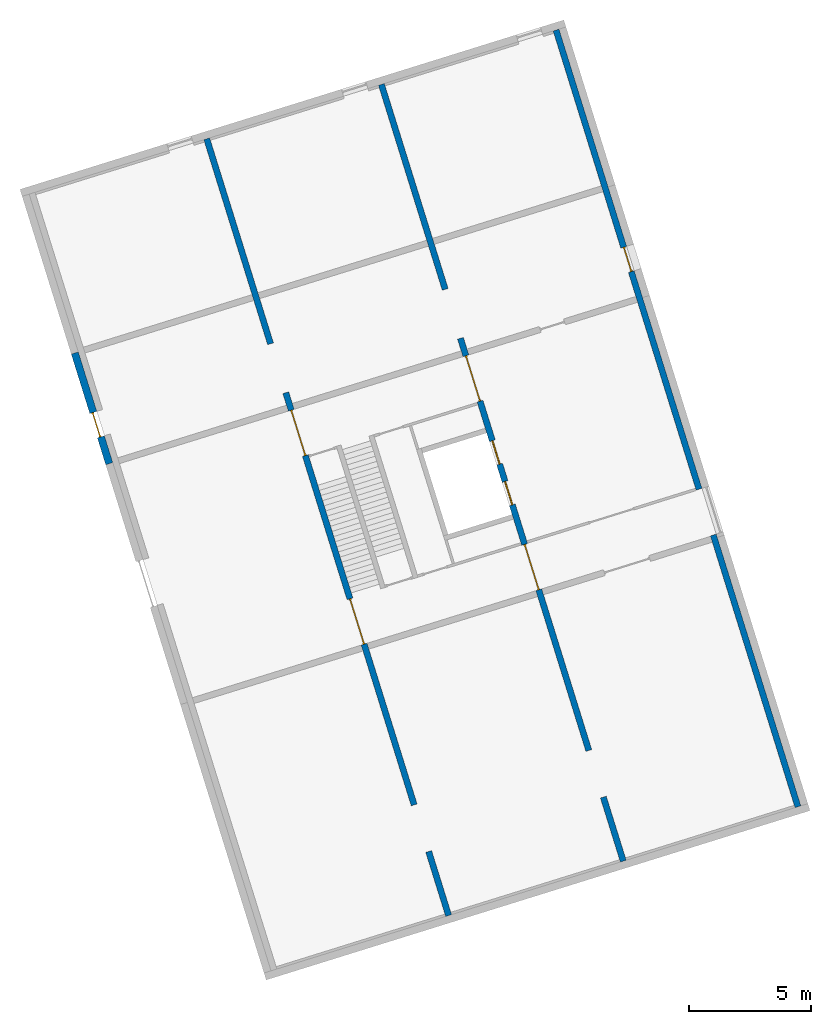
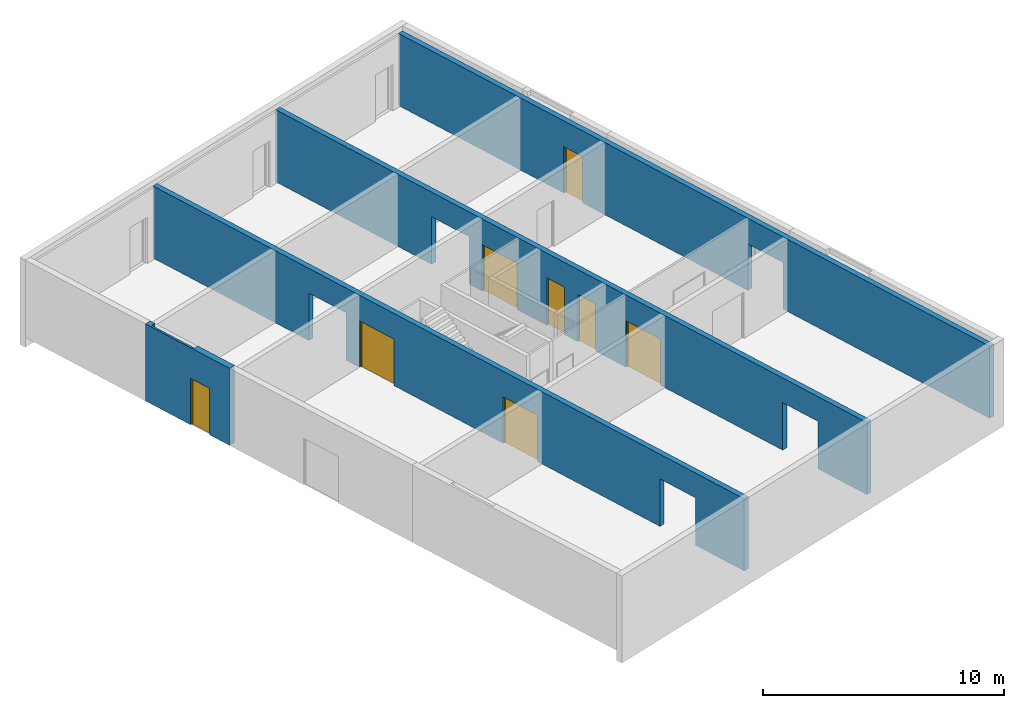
# One storey, part 3 of 5: 8 doors, 4 walls, 13 openings.
"""IFC4 building model written with IfcOpenShell, lengths in metres."""

from ifc_helpers import new_model, entity, si_unit, converted_unit, direction, frame, origin, place, context, subcontext, project, spatial, indexed_curve, outline, extrude, polygons, source, transform, mapped, material, constituent, constituent_set, type_object, type_shapes, element, fill, save


model = new_model("IFC4")

# Units and contexts
model_context = context("Model", 3, precision=1e-05, world=origin(), true_north=direction((6.12323399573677e-17, 1.0)))
body_context = subcontext(model_context, "Body", "Model", "MODEL_VIEW")
ifc_project = project(units=[si_unit("LENGTHUNIT", "METRE"), si_unit("AREAUNIT", "SQUARE_METRE"), si_unit("VOLUMEUNIT", "CUBIC_METRE"), converted_unit("PLANEANGLEUNIT", "DEGREE", entity("IfcPlaneAngleMeasure", 0.0174532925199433), si_unit("PLANEANGLEUNIT", "RADIAN"), dimensions=[0, 0, 0, 0, 0, 0, 0])], contexts=[model_context])

# Site, building, storey
site_placement = place(None, frame((13.1347999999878, 11.9886000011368, 0.0), z_axis=(0.0, 0.0, 1.0), x_axis=(0.954770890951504, 0.297342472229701, 0.0)))
site = spatial("IfcSite", under=ifc_project, at=site_placement, Name="Schiehaven", CompositionType="ELEMENT")
building_placement = place(site_placement, origin())
building = spatial("IfcBuilding", under=site, at=building_placement, Name="VORM huis", CompositionType="ELEMENT")
storey_placement = place(building_placement, origin())
storey = spatial("IfcBuildingStorey", under=building, at=storey_placement, Name="00 begane grond", CompositionType="ELEMENT", Elevation=0.0)

# Wall, openings, door
ifc_material_1 = material(Name="beton_gewapend_ihw", Category="Miscellaneous")
wall_type_1 = type_object("IfcWallType", Name="Basic Wall:28_WA_skelet_wand 250mm_gen", PredefinedType="STANDARD")
wall_1_placement = place(storey_placement, frame((80.0, 0.374999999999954, 0.0), z_axis=(0.0, 0.0, 1.0), x_axis=(0.0, 1.0, 0.0)))
wall_1 = element("IfcWall", 1, at=wall_1_placement, inside=storey, type_object=wall_type_1, material=ifc_material_1, Name="Constructieve wand", ObjectType="Wand", PredefinedType="NOTDEFINED", context=body_context, shape_type="Tessellation", body=[
    polygons([(-1.35358391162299e-16, -0.124999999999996, 0.0), (11.6675, -0.125000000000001, 0.0), (11.6675, -0.125000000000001, 2.34999999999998), (13.6325, -0.125000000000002, 2.34999999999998), (13.6325, -0.125000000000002, 0.0), (22.9749999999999, -0.124999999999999, 0.0), (22.9749999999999, -0.124999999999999, 2.34999999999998), (24.0249999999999, -0.125000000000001, 2.34999999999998), (24.0249999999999, -0.125000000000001, 0.0), (33.3500000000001, -0.124999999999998, 0.0), (33.3500000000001, -0.124999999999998, 3.65), (26.3000000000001, -0.124999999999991, 3.65), (23.9000000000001, -0.124999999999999, 3.65), (9.45000000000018, -0.124999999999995, 3.65), (7.05000000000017, -0.124999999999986, 3.65), (-1.35358391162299e-16, -0.124999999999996, 3.65), (11.6675, 0.124999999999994, 2.34999999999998), (11.6675, 0.124999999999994, 0.0), (1.35358391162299e-16, 0.124999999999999, 0.0), (1.35358391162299e-16, 0.124999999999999, 3.65), (33.3500000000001, 0.124999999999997, 3.65), (33.3500000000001, 0.124999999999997, 0.0), (24.0249999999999, 0.124999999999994, 0.0), (24.0249999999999, 0.124999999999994, 2.34999999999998), (22.9749999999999, 0.124999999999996, 2.34999999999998), (22.9749999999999, 0.124999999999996, 0.0), (13.6325, 0.124999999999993, 0.0), (13.6325, 0.124999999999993, 2.34999999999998)], [[[1, 2, 3, 4, 5, 6, 7, 8, 9, 10, 11, 12, 13, 14, 15, 16]], [[17, 18, 19, 20, 21, 22, 23, 24, 25, 26, 27, 28]], [[19, 18, 2, 1]], [[11, 10, 22, 21]], [[16, 15, 14, 13, 12, 11, 21, 20]], [[1, 16, 20, 19]], [[25, 7, 6, 26]], [[8, 24, 23, 9]], [[7, 25, 24, 8]], [[5, 4, 28, 27]], [[3, 2, 18, 17]], [[4, 3, 17, 28]], [[27, 26, 6, 5]], [[22, 10, 9, 23]]], closed=True),
])
opening_1_placement = place(wall_1_placement, origin())
element("IfcOpeningElement", 2, at=opening_1_placement, cuts=wall_1, Name="Vluchtdeur", PredefinedType="OPENING", context=body_context, shape_type="SweptSolid", body=[
    extrude(outline(indexed_curve([(-1.17499999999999, -0.9825), (1.17499999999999, -0.982500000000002), (1.17499999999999, 0.982500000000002), (-1.17499999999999, 0.982500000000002), (-1.17499999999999, -0.9825)], self_intersect=False)), frame((12.65, -1.64900000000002, 1.17499999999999), z_axis=(0.0, 1.0, 0.0), x_axis=(0.0, 0.0, -1.0)), (0.0, 0.0, 1.0), 3.048),
])
opening_2_placement = place(wall_1_placement, frame((24.0249999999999, 0.124999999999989, 0.0)))
opening_2 = element("IfcOpeningElement", 3, at=opening_2_placement, cuts=wall_1, Name="Vluchtdeur", PredefinedType="OPENING", context=body_context, shape_type="SweptSolid", body=[
    extrude(outline(indexed_curve([(2.34999999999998, 1.05), (0.0, 1.05), (0.0, 0.0), (2.34999999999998, 0.0), (2.34999999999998, 1.05)], self_intersect=False)), frame((0.0, 0.0, 0.0), z_axis=(0.0, -1.0, 0.0), x_axis=(0.0, 0.0, 1.0)), (0.0, 0.0, 1.0), 0.25),
])
ifc_material_2 = material(Name="PD_a_buitenwandopeningen", Category="Miscellaneous")
ifc_constituent_1 = constituent(ifc_material_2, Name="PD_a_buitenwandopeningen", Category="Miscellaneous")
ifc_material_3 = material(Name="metaal_aluminium_ntb", Category="Miscellaneous")
ifc_constituent_2 = constituent(ifc_material_3, Name="metaal_aluminium_ntb", Category="Miscellaneous")
ifc_constituent_set_1 = constituent_set(constituents=[ifc_constituent_1, ifc_constituent_2])
ifc_constituent_3 = constituent(ifc_material_2, Name="PD_a_buitenwandopeningen", Category="Miscellaneous")
ifc_constituent_4 = constituent(ifc_material_3, Name="Panel", Category="Miscellaneous")
ifc_constituent_set_2 = constituent_set(constituents=[ifc_constituent_3, ifc_constituent_4])
door_type_1 = type_object("IfcDoorType", Name="31_DO_buitendeur enkel:buitendeur zelfsluitend 30min", OperationType="NOTDEFINED", PredefinedType="DOOR", material=ifc_constituent_set_2)
shared_shape_1 = source(origin(), body_context, "Body", "SweptSolid", [
    extrude(outline(indexed_curve([(-1.16249999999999, -0.525000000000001), (1.18749999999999, -0.525), (1.18749999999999, 0.525000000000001), (-1.16249999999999, 0.525), (-1.16249999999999, 0.475), (1.13749999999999, 0.475), (1.13749999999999, -0.475), (-1.16249999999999, -0.475), (-1.16249999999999, -0.525000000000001)], self_intersect=False)), frame((0.525000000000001, 0.0800000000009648, 1.16249999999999), z_axis=(0.0, 1.0, 0.0), x_axis=(0.0, 0.0, 1.0)), (0.0, 0.0, 1.0), 0.1),
    extrude(outline(indexed_curve([(-0.025, -0.475), (0.025, -0.475), (0.025, 0.475), (-0.025, 0.475), (-0.025, -0.475)], self_intersect=False)), frame((0.525000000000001, 0.130000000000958, 0.0), z_axis=(0.0, 0.0, 1.0), x_axis=(0.0, 1.0, 0.0)), (0.0, 0.0, 1.0), 2.29999999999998),
])
type_shapes(door_type_1, [shared_shape_1])
door_1_placement = place(opening_2_placement, frame((0.0, 0.0, 0.0), z_axis=(0.0, 0.0, 1.0), x_axis=(-1.0, 0.0, 0.0)))
door_1 = element("IfcDoor", 4, at=door_1_placement, inside=storey, type_object=door_type_1, material=ifc_constituent_set_1, Name="Vluchtdeur", ObjectType="Deur", OperationType="NOTDEFINED", OverallHeight=2.34999999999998, OverallWidth=1.05, PredefinedType="DOOR", context=body_context, shape_type="MappedRepresentation", body=[
    mapped(shared_shape_1, transform((0.0, 0.0, 0.0), scale=1.0)),
])
fill(opening_2, door_1)

# Wall, openings, doors
wall_2_placement = place(storey_placement, frame((65.0, 33.7249999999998, 0.0), z_axis=(0.0, 0.0, 1.0), x_axis=(0.0, -1.0, 0.0)))
wall_2 = element("IfcWall", 5, at=wall_2_placement, inside=storey, type_object=wall_type_1, material=ifc_material_1, Name="Constructieve wand", ObjectType="Wand", PredefinedType="NOTDEFINED", context=body_context, shape_type="Tessellation", body=[
    polygons([(33.35, -0.125000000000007, 0.0), (33.35, -0.125000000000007, 3.65), (4.33146851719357e-15, -0.125000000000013, 3.65), (4.33146851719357e-15, -0.125000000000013, 0.0), (8.79999999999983, -0.125000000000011, 0.0), (8.79999999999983, -0.125000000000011, 2.4), (10.8999999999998, -0.125000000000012, 2.4), (10.8999999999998, -0.125000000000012, 0.0), (11.65, -0.125000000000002, 0.0), (11.65, -0.125000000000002, 2.34999999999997), (13.6, -0.125000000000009, 2.34999999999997), (13.6, -0.125000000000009, 0.0), (19.75, -0.125000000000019, 0.0), (19.75, -0.125000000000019, 2.34999999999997), (21.7, -0.125000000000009, 2.34999999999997), (21.7, -0.125000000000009, 0.0), (28.6, -0.125000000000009, 0.0), (28.6, -0.125000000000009, 2.4), (30.6, -0.125000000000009, 2.4), (30.6, -0.125000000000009, 0.0), (33.35, 0.124999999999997, 3.65), (33.35, 0.124999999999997, 0.0), (30.6, 0.124999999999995, 0.0), (30.6, 0.124999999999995, 2.4), (28.6, 0.124999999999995, 2.4), (28.6, 0.124999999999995, 0.0), (21.95, 0.124999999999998, 0.0), (21.7, 0.124999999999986, 0.0), (21.7, 0.124999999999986, 2.34999999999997), (19.75, 0.124999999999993, 2.34999999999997), (19.75, 0.124999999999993, 0.0), (13.6, 0.125000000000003, 0.0), (13.6, 0.125000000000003, 2.34999999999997), (11.65, 0.124999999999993, 2.34999999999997), (11.65, 0.124999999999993, 0.0), (11.4, 0.124999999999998, 0.0), (10.8999999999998, 0.124999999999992, 0.0), (10.8999999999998, 0.124999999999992, 2.4), (8.79999999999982, 0.124999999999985, 2.4), (8.79999999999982, 0.125000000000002, 0.0), (0.0, 0.124999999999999, 0.0), (0.0, 0.124999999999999, 3.65), (11.4, 0.124999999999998, 3.65), (11.65, 0.124999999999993, 3.65), (21.7, 0.124999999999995, 3.65), (21.95, 0.124999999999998, 3.65)], [[[1, 2, 3, 4, 5, 6, 7, 8, 9, 10, 11, 12, 13, 14, 15, 16, 17, 18, 19, 20]], [[21, 22, 23, 24, 25, 26, 27, 28, 29, 30, 31, 32, 33, 34, 35, 36, 37, 38, 39, 40, 41, 42, 43, 44, 45, 46]], [[4, 41, 40, 5]], [[2, 1, 22, 21]], [[3, 2, 21, 46, 45, 44, 43, 42]], [[4, 3, 42, 41]], [[6, 39, 38, 7]], [[39, 6, 5, 40]], [[7, 38, 37, 8]], [[16, 15, 29, 28]], [[14, 13, 31, 30]], [[15, 14, 30, 29]], [[34, 10, 9, 35]], [[11, 33, 32, 12]], [[10, 34, 33, 11]], [[18, 25, 24, 19]], [[25, 18, 17, 26]], [[19, 24, 23, 20]], [[8, 37, 36, 35, 9]], [[16, 28, 27, 26, 17]], [[31, 13, 12, 32]], [[22, 1, 20, 23]]], closed=True),
])
opening_3_placement = place(wall_2_placement, origin())
element("IfcOpeningElement", 6, at=opening_3_placement, cuts=wall_2, Name="Constructieve wand", PredefinedType="OPENING", context=body_context, shape_type="SweptSolid", body=[
    extrude(outline(indexed_curve([(-1.2, -1.05), (1.2, -1.05), (1.2, 1.05), (-1.2, 1.05), (-1.2, -1.05)], self_intersect=False)), frame((9.84999999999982, -0.124999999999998, 1.2), z_axis=(0.0, 1.0, 0.0), x_axis=(0.0, 0.0, -1.0)), (0.0, 0.0, 1.0), 0.249999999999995),
])
opening_4_placement = place(wall_2_placement, origin())
element("IfcOpeningElement", 7, at=opening_4_placement, cuts=wall_2, Name="Constructieve wand", PredefinedType="OPENING", context=body_context, shape_type="SweptSolid", body=[
    extrude(outline(indexed_curve([(-1.2, -0.999999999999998), (1.2, -0.999999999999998), (1.2, 0.999999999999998), (-1.2, 0.999999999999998), (-1.2, -0.999999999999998)], self_intersect=False)), frame((29.6, -0.125000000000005, 1.2), z_axis=(0.0, 1.0, 0.0), x_axis=(0.0, 0.0, -1.0)), (0.0, 0.0, 1.0), 0.249999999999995),
])
opening_5_placement = place(wall_2_placement, frame((21.7, 0.125000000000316, 0.0)))
opening_5 = element("IfcOpeningElement", 8, at=opening_5_placement, cuts=wall_2, Name="Vluchtdeur", PredefinedType="OPENING", context=body_context, shape_type="SweptSolid", body=[
    extrude(outline(indexed_curve([(2.34999999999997, 1.50459585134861e-28), (2.34999999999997, 1.95), (0.0, 1.95), (0.0, 1.50459585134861e-28), (2.34999999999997, 1.50459585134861e-28)], self_intersect=False)), frame((0.0, 0.0, 0.0), z_axis=(0.0, -1.0, 0.0), x_axis=(0.0, 0.0, 1.0)), (0.0, 0.0, 1.0), 0.25),
])
opening_6_placement = place(wall_2_placement, frame((13.6, 0.125000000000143, 0.0)))
opening_6 = element("IfcOpeningElement", 9, at=opening_6_placement, cuts=wall_2, Name="Vluchtdeur", PredefinedType="OPENING", context=body_context, shape_type="SweptSolid", body=[
    extrude(outline(indexed_curve([(2.34999999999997, 1.95), (0.0, 1.95), (0.0, 2.16573425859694e-15), (2.34999999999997, 2.16573425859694e-15), (2.34999999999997, 1.95)], self_intersect=False)), frame((0.0, 0.0, 0.0), z_axis=(0.0, -1.0, 0.0), x_axis=(0.0, 0.0, 1.0)), (0.0, 0.0, 1.0), 0.25),
])
ifc_material_4 = material(Name="PD_a_binnenwandopeningen", Category="Miscellaneous")
ifc_constituent_5 = constituent(ifc_material_4, Name="PD_a_binnenwandopeningen", Category="Miscellaneous")
ifc_constituent_6 = constituent(ifc_material_3, Name="metaal_aluminium_ntb", Category="Miscellaneous")
ifc_constituent_set_3 = constituent_set(constituents=[ifc_constituent_5, ifc_constituent_6])
ifc_constituent_7 = constituent(ifc_material_4, Name="PD_a_binnenwandopeningen", Category="Miscellaneous")
ifc_constituent_8 = constituent(ifc_material_3, Name="Panel", Category="Miscellaneous")
ifc_constituent_set_4 = constituent_set(constituents=[ifc_constituent_7, ifc_constituent_8])
door_type_2 = type_object("IfcDoorType", Name="32_DO_binnendeur dubbel:binnendeur zelfsluitend 30min", OperationType="NOTDEFINED", PredefinedType="DOOR", material=ifc_constituent_set_4)
shared_shape_2 = source(origin(), body_context, "Body", "SweptSolid", [
    extrude(outline(indexed_curve([(0.925, -1.16249999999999), (0.975, -1.16249999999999), (0.975, 1.18749999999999), (-0.975, 1.18749999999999), (-0.975, -1.16249999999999), (-0.925, -1.16249999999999), (-0.925, 1.13749999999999), (0.925, 1.13749999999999), (0.925, -1.16249999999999)], self_intersect=False)), frame((0.975000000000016, 0.175000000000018, 1.16249999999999), z_axis=(0.0, -1.0, 0.0), x_axis=(1.0, 0.0, 0.0)), (0.0, 0.0, 1.0), 0.1),
    extrude(outline(indexed_curve([(-0.462499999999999, -0.025), (0.462499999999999, -0.025), (0.462499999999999, 0.025), (-0.462499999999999, 0.025), (-0.462499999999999, -0.025)], self_intersect=False)), frame((0.512500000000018, 0.124999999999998, 0.0)), (0.0, 0.0, 1.0), 2.29999999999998),
    extrude(outline(indexed_curve([(-0.4625, -0.025), (0.4625, -0.025), (0.4625, 0.025), (-0.4625, 0.025), (-0.4625, -0.025)], self_intersect=False)), frame((1.43750000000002, 0.125000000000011, 0.0)), (0.0, 0.0, 1.0), 2.29999999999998),
])
type_shapes(door_type_2, [shared_shape_2])
door_2_placement = place(opening_5_placement, frame((0.0, 0.0, 0.0), z_axis=(0.0, 0.0, 1.0), x_axis=(-1.0, 0.0, 0.0)))
door_2 = element("IfcDoor", 10, at=door_2_placement, inside=storey, type_object=door_type_2, material=ifc_constituent_set_3, Name="Vluchtdeur", ObjectType="Deur", OperationType="NOTDEFINED", OverallHeight=2.34999999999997, OverallWidth=1.95, PredefinedType="DOOR", context=body_context, shape_type="MappedRepresentation", body=[
    mapped(shared_shape_2, transform((0.0, 0.0, 0.0), scale=1.0)),
])
fill(opening_5, door_2)
ifc_constituent_9 = constituent(ifc_material_4, Name="PD_a_binnenwandopeningen", Category="Miscellaneous")
ifc_constituent_10 = constituent(ifc_material_3, Name="metaal_aluminium_ntb", Category="Miscellaneous")
ifc_constituent_set_5 = constituent_set(constituents=[ifc_constituent_9, ifc_constituent_10])
ifc_constituent_11 = constituent(ifc_material_4, Name="PD_a_binnenwandopeningen", Category="Miscellaneous")
ifc_constituent_12 = constituent(ifc_material_3, Name="Panel", Category="Miscellaneous")
ifc_constituent_set_6 = constituent_set(constituents=[ifc_constituent_11, ifc_constituent_12])
door_type_3 = type_object("IfcDoorType", Name="32_DO_binnendeur dubbel:binnendeur zelfsluitend 30min", OperationType="NOTDEFINED", PredefinedType="DOOR", material=ifc_constituent_set_6)
shared_shape_3 = source(origin(), body_context, "Body", "SweptSolid", [
    extrude(outline(indexed_curve([(-1.16249999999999, -0.975), (1.18749999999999, -0.975), (1.18749999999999, 0.975), (-1.16249999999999, 0.975), (-1.16249999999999, 0.925), (1.13749999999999, 0.925), (1.13749999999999, -0.925), (-1.16249999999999, -0.925), (-1.16249999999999, -0.975)], self_intersect=False)), frame((0.975, 0.075000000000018, 1.16249999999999), z_axis=(0.0, 1.0, 0.0), x_axis=(0.0, 0.0, 1.0)), (0.0, 0.0, 1.0), 0.1),
    extrude(outline(indexed_curve([(-0.025, -0.462499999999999), (0.025, -0.462499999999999), (0.025, 0.462499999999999), (-0.025, 0.462499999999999), (-0.025, -0.462499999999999)], self_intersect=False)), frame((1.4375, 0.124999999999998, 0.0), z_axis=(0.0, 0.0, 1.0), x_axis=(0.0, 1.0, 0.0)), (0.0, 0.0, 1.0), 2.29999999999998),
    extrude(outline(indexed_curve([(-0.0249999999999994, -0.4625), (0.0250000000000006, -0.4625), (0.0249999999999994, 0.4625), (-0.0250000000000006, 0.4625), (-0.0249999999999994, -0.4625)], self_intersect=False)), frame((0.5125, 0.125000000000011, 0.0), z_axis=(0.0, 0.0, 1.0), x_axis=(0.0, 1.0, 0.0)), (0.0, 0.0, 1.0), 2.29999999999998),
])
type_shapes(door_type_3, [shared_shape_3])
door_3_placement = place(opening_6_placement, frame((0.0, 0.0, 0.0), z_axis=(0.0, 0.0, 1.0), x_axis=(-1.0, 0.0, 0.0)))
door_3 = element("IfcDoor", 11, at=door_3_placement, inside=storey, type_object=door_type_3, material=ifc_constituent_set_5, Name="Vluchtdeur", ObjectType="Deur", OperationType="NOTDEFINED", OverallHeight=2.34999999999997, OverallWidth=1.95, PredefinedType="DOOR", context=body_context, shape_type="MappedRepresentation", body=[
    mapped(shared_shape_3, transform((0.0, 0.0, 0.0), scale=1.0)),
])
fill(opening_6, door_3)

wall_3_placement = place(storey_placement, frame((72.5000000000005, 0.374999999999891, 0.0), z_axis=(0.0, 0.0, 1.0), x_axis=(0.0, 1.0, 0.0)))
wall_3 = element("IfcWall", 12, at=wall_3_placement, inside=storey, type_object=wall_type_1, material=ifc_material_1, Name="Constructieve wand", ObjectType="Wand", PredefinedType="NOTDEFINED", context=body_context, shape_type="Tessellation", body=[
    polygons([(18.05, -0.125000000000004, 2.03576600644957e-32), (19.75, -0.125, 0.0), (19.75, -0.125, 2.34999999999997), (21.7, -0.125000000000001, 2.34999999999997), (21.7, -0.125000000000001, 0.0), (22.4500000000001, -0.125000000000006, 0.0), (22.4500000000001, -0.125000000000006, 2.4), (24.5500000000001, -0.124999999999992, 2.4), (24.5500000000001, -0.124999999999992, 0.0), (33.35, -0.125000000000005, 0.0), (33.35, -0.125000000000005, 3.65), (1.28590471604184e-15, -0.125000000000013, 3.65), (2.03037586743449e-15, -0.125000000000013, 0.0), (2.7499999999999, -0.125000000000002, 0.0), (2.7499999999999, -0.125000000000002, 2.4), (4.74999999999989, -0.125000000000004, 2.4), (4.74999999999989, -0.125000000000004, 0.0), (11.65, -0.125, 0.0), (11.65, -0.125, 2.34999999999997), (13.6, -0.125000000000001, 2.34999999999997), (13.6, -0.125000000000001, 0.0), (15.3, -0.125000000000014, 0.0), (15.3, -0.125000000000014, 2.39999999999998), (16.3, -0.125000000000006, 2.39999999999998), (16.3, -0.125000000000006, -1.48156555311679e-45), (17.05, -0.124999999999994, 2.03576600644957e-32), (17.05, -0.124999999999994, 2.39999999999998), (18.05, -0.125000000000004, 2.39999999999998), (19.75, 0.125000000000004, 2.34999999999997), (19.75, 0.125000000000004, 0.0), (18.05, 0.125, 0.0), (18.05, 0.125, 2.39999999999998), (17.05, 0.125000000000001, 2.39999999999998), (17.05, 0.125000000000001, -2.03576600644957e-32), (16.3, 0.125000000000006, -1.48156555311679e-45), (16.3, 0.125000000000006, 2.39999999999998), (15.3, 0.124999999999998, 2.39999999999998), (15.3, 0.124999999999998, 0.0), (13.6, 0.124999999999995, 0.0), (13.6, 0.124999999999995, 2.34999999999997), (11.65, 0.125000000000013, 2.34999999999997), (11.65, 0.125000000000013, 0.0), (11.4, 0.125, 0.0), (4.74999999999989, 0.125, 0.0), (4.74999999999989, 0.125, 2.4), (2.7499999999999, 0.125000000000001, 2.4), (2.7499999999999, 0.125000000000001, 0.0), (2.23341345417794e-15, 0.124999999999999, 0.0), (1.48894230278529e-15, 0.124999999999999, 3.65), (11.4, 0.125, 3.65), (11.65, 0.125000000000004, 3.65), (21.7, 0.125000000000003, 3.65), (21.95, 0.124999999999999, 3.65), (33.35, 0.124999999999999, 3.65), (33.35, 0.124999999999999, 0.0), (24.5500000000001, 0.125000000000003, 0.0), (24.5500000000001, 0.125000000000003, 2.4), (22.4500000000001, 0.124999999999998, 2.4), (22.4500000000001, 0.124999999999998, 0.0), (21.95, 0.124999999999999, 0.0), (21.7, 0.125000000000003, 0.0), (21.7, 0.125000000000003, 2.34999999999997)], [[[1, 2, 3, 4, 5, 6, 7, 8, 9, 10, 11, 12, 13, 14, 15, 16, 17, 18, 19, 20, 21, 22, 23, 24, 25, 26, 27, 28]], [[29, 30, 31, 32, 33, 34, 35, 36, 37, 38, 39, 40, 41, 42, 43, 44, 45, 46, 47, 48, 49, 50, 51, 52, 53, 54, 55, 56, 57, 58, 59, 60, 61, 62]], [[13, 48, 47, 14]], [[11, 10, 55, 54]], [[12, 11, 54, 53, 52, 51, 50, 49]], [[13, 12, 49, 48]], [[28, 32, 31, 1]], [[33, 27, 26, 34]], [[32, 28, 27, 33]], [[24, 36, 35, 25]], [[37, 23, 22, 38]], [[36, 24, 23, 37]], [[5, 4, 62, 61]], [[3, 2, 30, 29]], [[4, 3, 29, 62]], [[42, 41, 19, 18]], [[40, 39, 21, 20]], [[41, 40, 20, 19]], [[58, 7, 6, 59]], [[8, 57, 56, 9]], [[7, 58, 57, 8]], [[15, 46, 45, 16]], [[46, 15, 14, 47]], [[16, 45, 44, 17]], [[18, 17, 44, 43, 42]], [[22, 21, 39, 38]], [[34, 26, 25, 35]], [[31, 30, 2, 1]], [[61, 60, 59, 6, 5]], [[55, 10, 9, 56]]], closed=True),
])
opening_7_placement = place(wall_3_placement, origin())
element("IfcOpeningElement", 13, at=opening_7_placement, cuts=wall_3, Name="Constructieve wand", PredefinedType="OPENING", context=body_context, shape_type="SweptSolid", body=[
    extrude(outline(indexed_curve([(-1.2, -1.05), (1.2, -1.05), (1.2, 1.05), (-1.2, 1.05), (-1.2, -1.05)], self_intersect=False)), frame((23.5000000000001, -0.124999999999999, 1.2), z_axis=(0.0, 1.0, 0.0), x_axis=(0.0, 0.0, -1.0)), (0.0, 0.0, 1.0), 0.249999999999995),
])
opening_8_placement = place(wall_3_placement, origin())
element("IfcOpeningElement", 14, at=opening_8_placement, cuts=wall_3, Name="Constructieve wand", PredefinedType="OPENING", context=body_context, shape_type="SweptSolid", body=[
    extrude(outline(indexed_curve([(-1.2, -0.999999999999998), (1.2, -0.999999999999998), (1.2, 0.999999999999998), (-1.2, 0.999999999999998), (-1.2, -0.999999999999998)], self_intersect=False)), frame((3.74999999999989, -0.124999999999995, 1.2), z_axis=(0.0, 1.0, 0.0), x_axis=(0.0, 0.0, -1.0)), (0.0, 0.0, 1.0), 0.249999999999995),
])
opening_9_placement = place(wall_3_placement, frame((-0.374999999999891, 72.5000000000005, 0.0), z_axis=(0.0, 0.0, 1.0), x_axis=(0.0, -1.0, 0.0)))
opening_9 = element("IfcOpeningElement", 15, at=opening_9_placement, cuts=wall_3, Name="Brandweerlift", PredefinedType="OPENING", context=body_context, shape_type="SweptSolid", body=[
    extrude(outline(indexed_curve([(-1.19999999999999, -0.500000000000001), (1.19999999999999, -0.500000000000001), (1.19999999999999, 0.499999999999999), (-1.19999999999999, 0.499999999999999), (-1.19999999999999, -0.500000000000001)], self_intersect=False)), frame((72.7936720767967, 17.9249999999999, 1.19999999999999), z_axis=(-1.0, 0.0, 0.0), x_axis=(0.0, 0.0, -1.0)), (0.0, 0.0, 1.0), 0.756310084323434),
])
opening_10_placement = place(wall_3_placement, frame((-0.374999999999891, 72.5000000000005, 0.0), z_axis=(0.0, 0.0, 1.0), x_axis=(0.0, -1.0, 0.0)))
opening_10 = element("IfcOpeningElement", 16, at=opening_10_placement, cuts=wall_3, Name="Brandweerlift", PredefinedType="OPENING", context=body_context, shape_type="SweptSolid", body=[
    extrude(outline(indexed_curve([(-1.19999999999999, -0.499999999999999), (1.19999999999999, -0.499999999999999), (1.19999999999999, 0.500000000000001), (-1.19999999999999, 0.500000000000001), (-1.19999999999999, -0.499999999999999)], self_intersect=False)), frame((72.7936720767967, 16.1749999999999, 1.19999999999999), z_axis=(-1.0, 0.0, 0.0), x_axis=(0.0, 0.0, -1.0)), (0.0, 0.0, 1.0), 0.756310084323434),
])
opening_11_placement = place(wall_3_placement, frame((13.6, 0.125000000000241, 0.0)))
opening_11 = element("IfcOpeningElement", 17, at=opening_11_placement, cuts=wall_3, Name="Vluchtdeur", PredefinedType="OPENING", context=body_context, shape_type="SweptSolid", body=[
    extrude(outline(indexed_curve([(2.34999999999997, 1.95), (0.0, 1.95), (0.0, 2.1657342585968e-15), (2.34999999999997, 2.1657342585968e-15), (2.34999999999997, 1.95)], self_intersect=False)), frame((0.0, 0.0, 0.0), z_axis=(0.0, -1.0, 0.0), x_axis=(0.0, 0.0, 1.0)), (0.0, 0.0, 1.0), 0.25),
])
opening_12_placement = place(wall_3_placement, frame((21.7, 0.125000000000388, 0.0)))
opening_12 = element("IfcOpeningElement", 18, at=opening_12_placement, cuts=wall_3, Name="Vluchtdeur", PredefinedType="OPENING", context=body_context, shape_type="SweptSolid", body=[
    extrude(outline(indexed_curve([(2.34999999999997, 1.50842700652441e-29), (2.34999999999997, 1.95), (0.0, 1.95), (0.0, 1.50842700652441e-29), (2.34999999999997, 1.50842700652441e-29)], self_intersect=False)), frame((0.0, 0.0, 0.0), z_axis=(0.0, -1.0, 0.0), x_axis=(0.0, 0.0, 1.0)), (0.0, 0.0, 1.0), 0.25),
])
door_type_4 = type_object("IfcDoorType", Name="66_WI_liftdeur:brandweerlift - tweezijdig toegankelijk", OperationType="NOTDEFINED", PredefinedType="DOOR", material=ifc_material_3)
shared_shape_4 = source(origin(), body_context, "Body", "SweptSolid", [
    extrude(outline(indexed_curve([(-0.0250000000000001, -0.25), (0.0249999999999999, -0.25), (0.0250000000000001, 0.25), (-0.0249999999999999, 0.25), (-0.0250000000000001, -0.25)], self_intersect=False)), frame((0.250000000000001, 0.462638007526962, 0.0), z_axis=(0.0, 0.0, 1.0), x_axis=(0.0, 1.0, 0.0)), (0.0, 0.0, 1.0), 2.39999999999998),
    extrude(outline(indexed_curve([(-0.0250000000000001, -0.25), (0.0249999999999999, -0.25), (0.0250000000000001, 0.25), (-0.0249999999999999, 0.25), (-0.0250000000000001, -0.25)], self_intersect=False)), frame((0.750000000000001, 0.46263800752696, 0.0), z_axis=(0.0, 0.0, 1.0), x_axis=(0.0, 1.0, 0.0)), (0.0, 0.0, 1.0), 2.39999999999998),
])
type_shapes(door_type_4, [shared_shape_4])
door_4_placement = place(opening_10_placement, frame((72.0373619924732, 16.6749999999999, 0.0), z_axis=(0.0, 0.0, 1.0), x_axis=(0.0, -1.0, 0.0)))
door_4 = element("IfcDoor", 19, at=door_4_placement, inside=storey, type_object=door_type_4, material=ifc_material_3, Name="Brandweerlift", ObjectType="Transport", OperationType="NOTDEFINED", OverallHeight=2.39999999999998, OverallWidth=1.0, PredefinedType="DOOR", context=body_context, shape_type="MappedRepresentation", body=[
    mapped(shared_shape_4, transform((0.0, 0.0, 0.0), scale=1.0)),
])
fill(opening_10, door_4)
door_5_placement = place(opening_9_placement, frame((72.0373619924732, 18.4249999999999, 0.0), z_axis=(0.0, 0.0, 1.0), x_axis=(0.0, -1.0, 0.0)))
door_5 = element("IfcDoor", 20, at=door_5_placement, inside=storey, type_object=door_type_4, material=ifc_material_3, Name="Brandweerlift", ObjectType="Transport", OperationType="NOTDEFINED", OverallHeight=2.39999999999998, OverallWidth=1.0, PredefinedType="DOOR", context=body_context, shape_type="MappedRepresentation", body=[
    mapped(shared_shape_4, transform((0.0, 0.0, 0.0), scale=1.0)),
])
fill(opening_9, door_5)
ifc_constituent_13 = constituent(ifc_material_4, Name="PD_a_binnenwandopeningen", Category="Miscellaneous")
ifc_constituent_14 = constituent(ifc_material_3, Name="metaal_aluminium_ntb", Category="Miscellaneous")
ifc_constituent_set_7 = constituent_set(constituents=[ifc_constituent_13, ifc_constituent_14])
door_6_placement = place(opening_12_placement, frame((0.0, 0.0, 0.0), z_axis=(0.0, 0.0, 1.0), x_axis=(-1.0, 0.0, 0.0)))
door_6 = element("IfcDoor", 21, at=door_6_placement, inside=storey, type_object=door_type_2, material=ifc_constituent_set_7, Name="Vluchtdeur", ObjectType="Deur", OperationType="NOTDEFINED", OverallHeight=2.34999999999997, OverallWidth=1.95, PredefinedType="DOOR", context=body_context, shape_type="MappedRepresentation", body=[
    mapped(shared_shape_2, transform((0.0, 0.0, 0.0), scale=1.0)),
])
fill(opening_12, door_6)
ifc_constituent_15 = constituent(ifc_material_4, Name="PD_a_binnenwandopeningen", Category="Miscellaneous")
ifc_constituent_16 = constituent(ifc_material_3, Name="metaal_aluminium_ntb", Category="Miscellaneous")
ifc_constituent_set_8 = constituent_set(constituents=[ifc_constituent_15, ifc_constituent_16])
door_7_placement = place(opening_11_placement, frame((0.0, 0.0, 0.0), z_axis=(0.0, 0.0, 1.0), x_axis=(-1.0, 0.0, 0.0)))
door_7 = element("IfcDoor", 22, at=door_7_placement, inside=storey, type_object=door_type_3, material=ifc_constituent_set_8, Name="Vluchtdeur", ObjectType="Deur", OperationType="NOTDEFINED", OverallHeight=2.34999999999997, OverallWidth=1.95, PredefinedType="DOOR", context=body_context, shape_type="MappedRepresentation", body=[
    mapped(shared_shape_3, transform((0.0, 0.0, 0.0), scale=1.0)),
])
fill(opening_11, door_7)

# Wall, opening, door
ifc_material_5 = material(Name="ntb_ntb_ntb", Category="Miscellaneous")
wall_type_2 = type_object("IfcWallType", Name="Basic Wall: 300mm_gen", PredefinedType="STANDARD")
wall_4_placement = place(storey_placement, frame((57.225, 26.9499999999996, 0.0), z_axis=(0.0, 0.0, 1.0), x_axis=(0.0, -1.0, 0.0)))
wall_4 = element("IfcWall", 23, at=wall_4_placement, inside=storey, type_object=wall_type_2, material=ifc_material_5, Name="Gevelwand", ObjectType="Wand", PredefinedType="NOTDEFINED", context=body_context, shape_type="Tessellation", body=[
    polygons([(4.74999999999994, -0.149999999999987, 0.0), (4.74999999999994, -0.149999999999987, 3.9), (0.0, -0.149999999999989, 3.9), (0.0, -0.149999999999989, 0.0), (2.54999999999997, -0.150000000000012, 0.0), (2.54999999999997, -0.150000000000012, 2.34999999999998), (3.59999999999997, -0.149999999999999, 2.34999999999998), (3.59999999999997, -0.149999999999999, 0.0), (4.74999999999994, 0.15000000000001, 3.9), (4.74999999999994, 0.15000000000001, 0.0), (3.59999999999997, 0.149999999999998, 0.0), (3.59999999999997, 0.149999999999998, 2.34999999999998), (2.54999999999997, 0.149999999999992, 2.34999999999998), (2.54999999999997, 0.149999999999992, 0.0), (3.5527136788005e-15, 0.150000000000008, 0.0), (3.5527136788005e-15, 0.150000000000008, 3.9), (0.274999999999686, 0.150000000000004, 3.9), (0.274999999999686, 0.150000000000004, 3.65), (2.67499999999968, 0.14999999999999, 3.65), (2.67499999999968, 0.150000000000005, 3.9), (2.67499999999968, -0.0499999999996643, 3.9), (0.274999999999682, -0.0499999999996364, 3.9), (0.274999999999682, -0.0499999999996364, 3.65), (2.67499999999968, -0.0499999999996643, 3.65)], [[[1, 2, 3, 4, 5, 6, 7, 8]], [[9, 10, 11, 12, 13, 14, 15, 16, 17, 18, 19, 20]], [[4, 15, 14, 5]], [[2, 1, 10, 9]], [[3, 2, 9, 20, 21, 22, 17, 16]], [[4, 3, 16, 15]], [[7, 6, 13, 12]], [[6, 5, 14, 13]], [[8, 7, 12, 11]], [[23, 24, 19, 18]], [[22, 23, 18, 17]], [[24, 23, 22, 21]], [[24, 21, 20, 19]], [[10, 1, 8, 11]]], closed=True),
])
opening_13_placement = place(wall_4_placement, frame((3.59999999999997, 0.150000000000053, 0.0)))
opening_13 = element("IfcOpeningElement", 24, at=opening_13_placement, cuts=wall_4, Name="Vluchtdeur", PredefinedType="OPENING", context=body_context, shape_type="SweptSolid", body=[
    extrude(outline(indexed_curve([(2.34999999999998, 0.0), (2.34999999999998, 1.05), (0.0, 1.05), (0.0, 0.0), (2.34999999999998, 0.0)], self_intersect=False)), frame((0.0, 0.0, 0.0), z_axis=(0.0, -1.0, 0.0), x_axis=(0.0, 0.0, 1.0)), (0.0, 0.0, 1.0), 0.3),
])
ifc_constituent_17 = constituent(ifc_material_2, Name="PD_a_buitenwandopeningen", Category="Miscellaneous")
ifc_constituent_18 = constituent(ifc_material_3, Name="metaal_aluminium_ntb", Category="Miscellaneous")
ifc_constituent_set_9 = constituent_set(constituents=[ifc_constituent_17, ifc_constituent_18])
ifc_constituent_19 = constituent(ifc_material_2, Name="PD_a_buitenwandopeningen", Category="Miscellaneous")
ifc_constituent_20 = constituent(ifc_material_3, Name="Panel", Category="Miscellaneous")
ifc_constituent_set_10 = constituent_set(constituents=[ifc_constituent_19, ifc_constituent_20])
door_type_5 = type_object("IfcDoorType", Name="31_DO_buitendeur enkel:buitendeur zelfsluitend 30min", OperationType="NOTDEFINED", PredefinedType="DOOR", material=ifc_constituent_set_10)
shared_shape_5 = source(origin(), body_context, "Body", "SweptSolid", [
    extrude(outline(indexed_curve([(0.475, -1.16249999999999), (0.525000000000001, -1.16249999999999), (0.525000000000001, 1.18749999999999), (-0.525000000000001, 1.18749999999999), (-0.525000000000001, -1.16249999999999), (-0.475, -1.16249999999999), (-0.475, 1.13749999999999), (0.475, 1.13749999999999), (0.475, -1.16249999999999)], self_intersect=False)), frame((0.525000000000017, 0.230000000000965, 1.16249999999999), z_axis=(0.0, -1.0, 0.0), x_axis=(1.0, 0.0, 0.0)), (0.0, 0.0, 1.0), 0.1),
    extrude(outline(indexed_curve([(-0.475, -0.025), (0.475, -0.025), (0.475, 0.025), (-0.475, 0.025), (-0.475, -0.025)], self_intersect=False)), frame((0.525000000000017, 0.180000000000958, 0.0)), (0.0, 0.0, 1.0), 2.29999999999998),
])
type_shapes(door_type_5, [shared_shape_5])
door_8_placement = place(opening_13_placement, frame((0.0, 0.0, 0.0), z_axis=(0.0, 0.0, 1.0), x_axis=(-1.0, 0.0, 0.0)))
door_8 = element("IfcDoor", 25, at=door_8_placement, inside=storey, type_object=door_type_5, material=ifc_constituent_set_9, Name="Vluchtdeur", ObjectType="Deur", OperationType="NOTDEFINED", OverallHeight=2.34999999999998, OverallWidth=1.05, PredefinedType="DOOR", context=body_context, shape_type="MappedRepresentation", body=[
    mapped(shared_shape_5, transform((0.0, 0.0, 0.0), scale=1.0)),
])
fill(opening_13, door_8)

save(model, "model.ifc")
